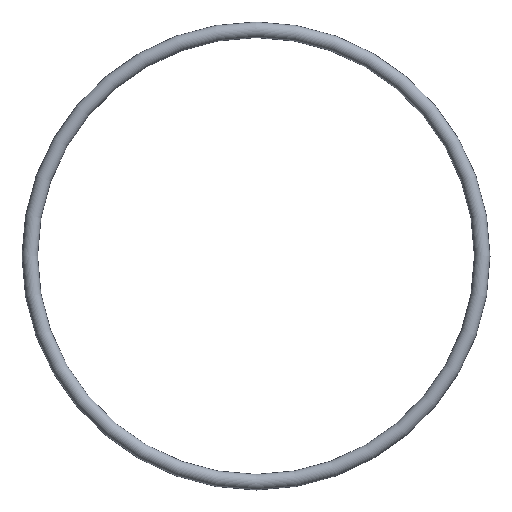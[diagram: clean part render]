
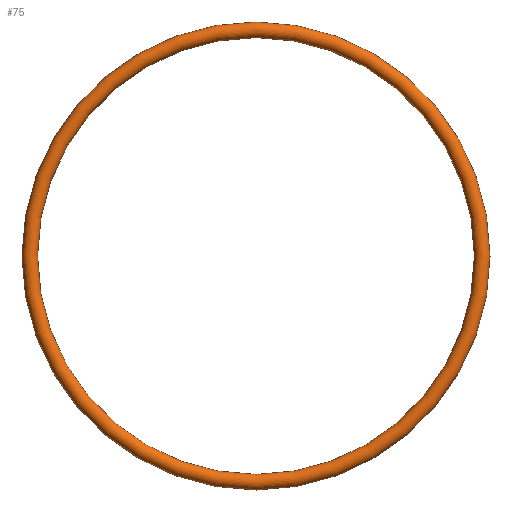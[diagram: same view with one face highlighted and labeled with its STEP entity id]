
A CAD part, front view. The second image highlights one B-rep face of the part: STEP entity #75.
In plain terms, the highlighted toroidal (fillet/blend) face has major radius 29 mm and minor radius 1 mm.
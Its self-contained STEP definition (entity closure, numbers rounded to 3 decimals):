
#75 = ADVANCED_FACE( '', ( #77 ), #78, .T. );
#77 = FACE_BOUND( '', #79, .T. );
#78 = TOROIDAL_SURFACE( '', #80, 29., 1. );
#79 = VERTEX_LOOP( '', #81 );
#80 = AXIS2_PLACEMENT_3D( '', #82, #83, #84 );
#81 = VERTEX_POINT( '', #85 );
#82 = CARTESIAN_POINT( '', ( 0., 0., 0. ) );
#83 = DIRECTION( '', ( 0., -1., 0. ) );
#84 = DIRECTION( '', ( 0., 0., -1. ) );
#85 = CARTESIAN_POINT( '', ( 0., 0., -30. ) );
